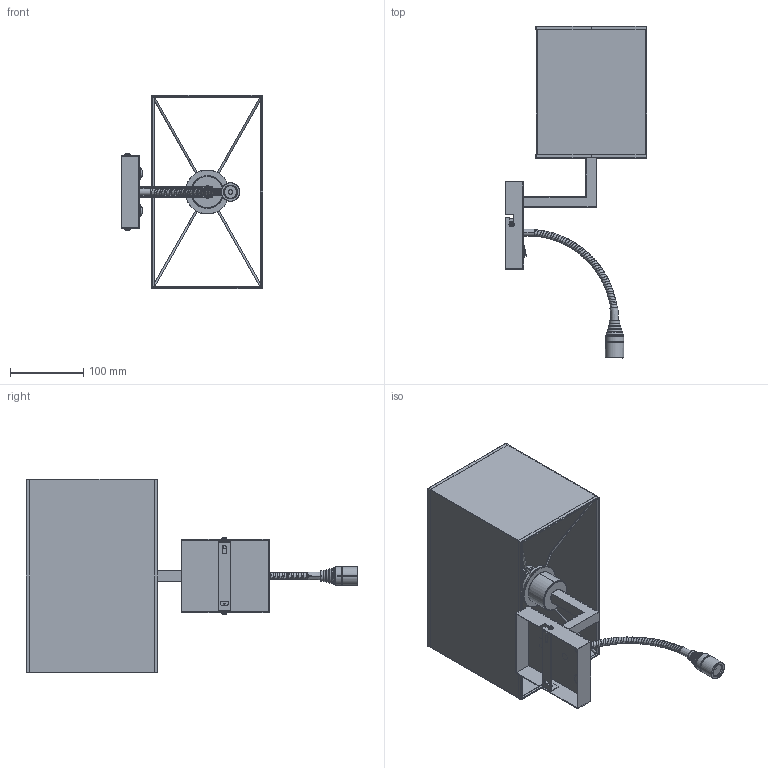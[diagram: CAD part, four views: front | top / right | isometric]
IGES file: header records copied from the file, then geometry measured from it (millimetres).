
Start section: SolidWorks IGES file using analytic representation for surfaces
Global section: file name: E:\3D lampy\Hotel\Hotel_6800.IGS; native system: SolidWorks 2016; preprocessor: SolidWorks 2016; author: Asia; date: 170929.143630; units: millimetre
Bounding box: 193.19 x 453.58 x 264.37 mm (x, y, z)
Surface area: 424256.3 mm2 (no closed solid volume)
Topology: 0 solids, 0 shells, 527 faces, 8774 edges, 8766 vertices
Faces by surface type: bspline 330, revolution 197
